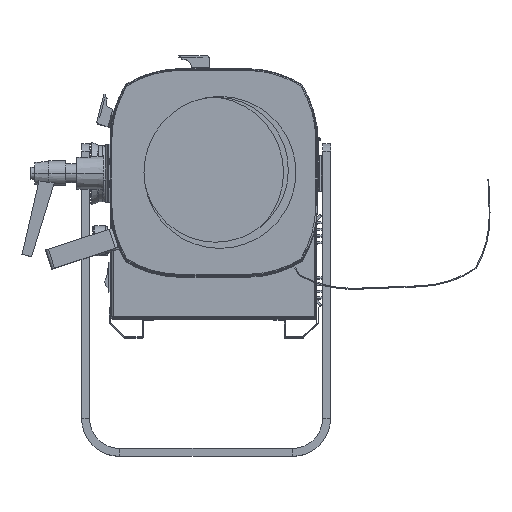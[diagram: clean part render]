
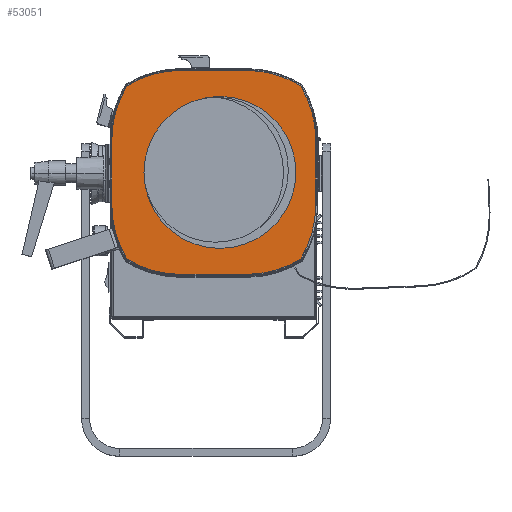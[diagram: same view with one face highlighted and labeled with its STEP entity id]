
A CAD part, top view. The second image highlights one B-rep face of the part: STEP entity #53051.
In plain terms, the highlighted planar face has unit normal (0, 0, 1).
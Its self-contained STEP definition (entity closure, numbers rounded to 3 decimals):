
#1302 = CIRCLE ( 'NONE', #10246, 102. ) ;
#1309 = LINE ( 'NONE', #6274, #35253 ) ;
#1671 = PLANE ( 'NONE',  #5275 ) ;
#2133 = CARTESIAN_POINT ( 'NONE',  ( 33., -102., 615.2 ) ) ;
#3151 = LINE ( 'NONE', #62505, #18501 ) ;
#3771 = ORIENTED_EDGE ( 'NONE', *, *, #38407, .T. ) ;
#4061 = ORIENTED_EDGE ( 'NONE', *, *, #66406, .T. ) ;
#4336 = CIRCLE ( 'NONE', #42712, 102. ) ;
#4448 = VERTEX_POINT ( 'NONE', #18889 ) ;
#4656 = EDGE_CURVE ( 'NONE', #4448, #13370, #7434, .T. ) ;
#4809 = ORIENTED_EDGE ( 'NONE', *, *, #62460, .T. ) ;
#4837 = EDGE_LOOP ( 'NONE', ( #4061, #12251 ) ) ;
#5275 = AXIS2_PLACEMENT_3D ( 'NONE', #43158, #63907, #27644 ) ;
#5404 = DIRECTION ( 'NONE',  ( 0., 0., 1. ) ) ;
#5932 = CARTESIAN_POINT ( 'NONE',  ( -102., 0., 615.2 ) ) ;
#6248 = CARTESIAN_POINT ( 'NONE',  ( -33., 102., 615.2 ) ) ;
#6274 = CARTESIAN_POINT ( 'NONE',  ( 102., 0., 615.2 ) ) ;
#7434 = LINE ( 'NONE', #5932, #37302 ) ;
#7789 = VERTEX_POINT ( 'NONE', #6248 ) ;
#8697 = DIRECTION ( 'NONE',  ( 1., 0., 0. ) ) ;
#9755 = EDGE_CURVE ( 'NONE', #62174, #32305, #1302, .T. ) ;
#9973 = DIRECTION ( 'NONE',  ( 1., 0., 0. ) ) ;
#10086 = DIRECTION ( 'NONE',  ( 0., 0., 1. ) ) ;
#10246 = AXIS2_PLACEMENT_3D ( 'NONE', #55408, #29939, #8697 ) ;
#10534 = CARTESIAN_POINT ( 'NONE',  ( -86.712, 86.712, 615.2 ) ) ;
#10649 = VERTEX_POINT ( 'NONE', #50687 ) ;
#10700 = DIRECTION ( 'NONE',  ( 1., 0., 0. ) ) ;
#10970 = CIRCLE ( 'NONE', #43293, 102. ) ;
#11188 = DIRECTION ( 'NONE',  ( 0., 0., -1. ) ) ;
#11270 = EDGE_CURVE ( 'NONE', #13370, #62174, #22852, .T. ) ;
#11395 = ORIENTED_EDGE ( 'NONE', *, *, #62526, .T. ) ;
#11462 = CARTESIAN_POINT ( 'NONE',  ( 0., -33., 615.2 ) ) ;
#11558 = CARTESIAN_POINT ( 'NONE',  ( 102., -33., 615.2 ) ) ;
#12251 = ORIENTED_EDGE ( 'NONE', *, *, #26907, .T. ) ;
#13370 = VERTEX_POINT ( 'NONE', #31951 ) ;
#13545 = DIRECTION ( 'NONE',  ( 1., 0., 0. ) ) ;
#15405 = CARTESIAN_POINT ( 'NONE',  ( 0., -33., 615.2 ) ) ;
#15410 = DIRECTION ( 'NONE',  ( 0., 0., 1. ) ) ;
#15656 = VERTEX_POINT ( 'NONE', #51845 ) ;
#17558 = ORIENTED_EDGE ( 'NONE', *, *, #24733, .T. ) ;
#18501 = VECTOR ( 'NONE', #46491, 1000. ) ;
#18677 = EDGE_CURVE ( 'NONE', #63566, #43951, #4336, .T. ) ;
#18781 = EDGE_CURVE ( 'NONE', #43951, #57700, #28555, .T. ) ;
#18889 = CARTESIAN_POINT ( 'NONE',  ( -102., 33., 615.2 ) ) ;
#19385 = LINE ( 'NONE', #63311, #43568 ) ;
#20586 = DIRECTION ( 'NONE',  ( 0., 0., 1. ) ) ;
#20661 = CIRCLE ( 'NONE', #39165, 102. ) ;
#21780 = CARTESIAN_POINT ( 'NONE',  ( -86.712, -86.712, 615.2 ) ) ;
#22852 = CIRCLE ( 'NONE', #37516, 102. ) ;
#23891 = CIRCLE ( 'NONE', #33640, 102. ) ;
#24733 = EDGE_CURVE ( 'NONE', #57700, #7789, #3151, .T. ) ;
#24881 = AXIS2_PLACEMENT_3D ( 'NONE', #61526, #10086, #45976 ) ;
#25601 = DIRECTION ( 'NONE',  ( 0., 0., 1. ) ) ;
#26047 = AXIS2_PLACEMENT_3D ( 'NONE', #31305, #11188, #31533 ) ;
#26669 = EDGE_CURVE ( 'NONE', #55141, #10649, #10970, .T. ) ;
#26907 = EDGE_CURVE ( 'NONE', #30535, #15656, #60138, .T. ) ;
#27644 = DIRECTION ( 'NONE',  ( 1., 0., 0. ) ) ;
#28260 = VERTEX_POINT ( 'NONE', #10534 ) ;
#28555 = CIRCLE ( 'NONE', #54415, 102. ) ;
#29939 = DIRECTION ( 'NONE',  ( 0., 0., 1. ) ) ;
#30128 = DIRECTION ( 'NONE',  ( 1., 0., 0. ) ) ;
#30434 = ORIENTED_EDGE ( 'NONE', *, *, #45361, .T. ) ;
#30535 = VERTEX_POINT ( 'NONE', #56094 ) ;
#30896 = CARTESIAN_POINT ( 'NONE',  ( 6.17, 0., 615.2 ) ) ;
#31141 = DIRECTION ( 'NONE',  ( 1., 0., 0. ) ) ;
#31305 = CARTESIAN_POINT ( 'NONE',  ( 6.17, 0., 615.2 ) ) ;
#31533 = DIRECTION ( 'NONE',  ( -1., 0., 0. ) ) ;
#31951 = CARTESIAN_POINT ( 'NONE',  ( -102., -33., 615.2 ) ) ;
#32111 = CARTESIAN_POINT ( 'NONE',  ( 102., 33., 615.2 ) ) ;
#32305 = VERTEX_POINT ( 'NONE', #61038 ) ;
#33640 = AXIS2_PLACEMENT_3D ( 'NONE', #60961, #15410, #30128 ) ;
#34049 = EDGE_CURVE ( 'NONE', #32305, #55141, #19385, .T. ) ;
#34744 = ORIENTED_EDGE ( 'NONE', *, *, #11270, .T. ) ;
#34831 = CIRCLE ( 'NONE', #53609, 76. ) ;
#35253 = VECTOR ( 'NONE', #62674, 1000. ) ;
#36060 = DIRECTION ( 'NONE',  ( -1., 0., 0. ) ) ;
#36621 = DIRECTION ( 'NONE',  ( 0., -1., 0. ) ) ;
#37302 = VECTOR ( 'NONE', #36621, 1000. ) ;
#37516 = AXIS2_PLACEMENT_3D ( 'NONE', #15405, #20586, #9973 ) ;
#38407 = EDGE_CURVE ( 'NONE', #7789, #28260, #23891, .T. ) ;
#39118 = ORIENTED_EDGE ( 'NONE', *, *, #4656, .T. ) ;
#39165 = AXIS2_PLACEMENT_3D ( 'NONE', #11462, #5404, #31141 ) ;
#40700 = DIRECTION ( 'NONE',  ( 0., 0., 1. ) ) ;
#40837 = VERTEX_POINT ( 'NONE', #11558 ) ;
#42712 = AXIS2_PLACEMENT_3D ( 'NONE', #66421, #40700, #56295 ) ;
#43158 = CARTESIAN_POINT ( 'NONE',  ( 33., 0., 615.2 ) ) ;
#43293 = AXIS2_PLACEMENT_3D ( 'NONE', #44208, #43982, #13545 ) ;
#43568 = VECTOR ( 'NONE', #47971, 1000. ) ;
#43726 = ORIENTED_EDGE ( 'NONE', *, *, #18781, .T. ) ;
#43951 = VERTEX_POINT ( 'NONE', #48495 ) ;
#43982 = DIRECTION ( 'NONE',  ( 0., 0., 1. ) ) ;
#44208 = CARTESIAN_POINT ( 'NONE',  ( 33., 0., 615.2 ) ) ;
#44356 = FACE_OUTER_BOUND ( 'NONE', #51184, .T. ) ;
#44473 = ORIENTED_EDGE ( 'NONE', *, *, #34049, .T. ) ;
#45361 = EDGE_CURVE ( 'NONE', #28260, #4448, #48923, .T. ) ;
#45976 = DIRECTION ( 'NONE',  ( 1., 0., 0. ) ) ;
#46491 = DIRECTION ( 'NONE',  ( -1., 0., 0. ) ) ;
#47664 = ORIENTED_EDGE ( 'NONE', *, *, #9755, .T. ) ;
#47971 = DIRECTION ( 'NONE',  ( 1., 0., 0. ) ) ;
#48495 = CARTESIAN_POINT ( 'NONE',  ( 86.712, 86.712, 615.2 ) ) ;
#48923 = CIRCLE ( 'NONE', #24881, 102. ) ;
#50687 = CARTESIAN_POINT ( 'NONE',  ( 86.712, -86.712, 615.2 ) ) ;
#51184 = EDGE_LOOP ( 'NONE', ( #47664, #44473, #62071, #4809, #11395, #60848, #43726, #17558, #3771, #30434, #39118, #34744 ) ) ;
#51845 = CARTESIAN_POINT ( 'NONE',  ( -69.83, 0., 615.2 ) ) ;
#52853 = CARTESIAN_POINT ( 'NONE',  ( 33., 102., 615.2 ) ) ;
#53051 = ADVANCED_FACE ( 'NONE', ( #57255, #44356 ), #1671, .T. ) ;
#53609 = AXIS2_PLACEMENT_3D ( 'NONE', #30896, #66944, #36060 ) ;
#54415 = AXIS2_PLACEMENT_3D ( 'NONE', #61674, #25601, #10700 ) ;
#55141 = VERTEX_POINT ( 'NONE', #2133 ) ;
#55408 = CARTESIAN_POINT ( 'NONE',  ( -33., 0., 615.2 ) ) ;
#56094 = CARTESIAN_POINT ( 'NONE',  ( 82.17, 0., 615.2 ) ) ;
#56295 = DIRECTION ( 'NONE',  ( 1., 0., 0. ) ) ;
#57255 = FACE_BOUND ( 'NONE', #4837, .T. ) ;
#57700 = VERTEX_POINT ( 'NONE', #52853 ) ;
#60138 = CIRCLE ( 'NONE', #26047, 76. ) ;
#60848 = ORIENTED_EDGE ( 'NONE', *, *, #18677, .T. ) ;
#60961 = CARTESIAN_POINT ( 'NONE',  ( -33., 0., 615.2 ) ) ;
#61038 = CARTESIAN_POINT ( 'NONE',  ( -33., -102., 615.2 ) ) ;
#61526 = CARTESIAN_POINT ( 'NONE',  ( 0., 33., 615.2 ) ) ;
#61674 = CARTESIAN_POINT ( 'NONE',  ( 33., 0., 615.2 ) ) ;
#62071 = ORIENTED_EDGE ( 'NONE', *, *, #26669, .T. ) ;
#62174 = VERTEX_POINT ( 'NONE', #21780 ) ;
#62460 = EDGE_CURVE ( 'NONE', #10649, #40837, #20661, .T. ) ;
#62505 = CARTESIAN_POINT ( 'NONE',  ( 33., 102., 615.2 ) ) ;
#62526 = EDGE_CURVE ( 'NONE', #40837, #63566, #1309, .T. ) ;
#62674 = DIRECTION ( 'NONE',  ( 0., 1., 0. ) ) ;
#63311 = CARTESIAN_POINT ( 'NONE',  ( 33., -102., 615.2 ) ) ;
#63566 = VERTEX_POINT ( 'NONE', #32111 ) ;
#63907 = DIRECTION ( 'NONE',  ( 0., 0., 1. ) ) ;
#66406 = EDGE_CURVE ( 'NONE', #15656, #30535, #34831, .T. ) ;
#66421 = CARTESIAN_POINT ( 'NONE',  ( 0., 33., 615.2 ) ) ;
#66944 = DIRECTION ( 'NONE',  ( 0., 0., -1. ) ) ;
